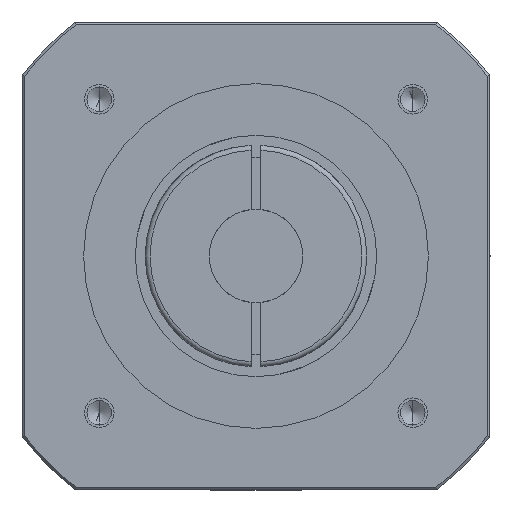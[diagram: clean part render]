
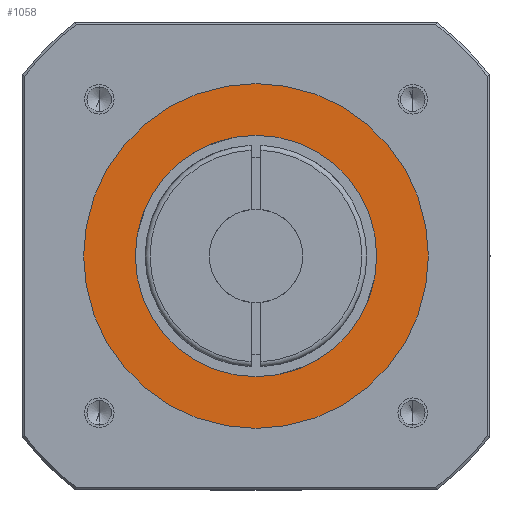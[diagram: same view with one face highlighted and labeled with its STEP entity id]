
A CAD part, front view. The second image highlights one B-rep face of the part: STEP entity #1058.
In plain terms, the highlighted planar face has unit normal (0, -1, 0).
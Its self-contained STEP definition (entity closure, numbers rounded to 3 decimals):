
#367 = AXIS2_PLACEMENT_3D ( 'NONE', #4467, #4477, #4478 ) ;
#517 = AXIS2_PLACEMENT_3D ( 'NONE', #5159, #5160, #5161 ) ;
#594 = EDGE_CURVE ( 'NONE', #5955, #5960, #1858, .T. ) ;
#638 = AXIS2_PLACEMENT_3D ( 'NONE', #4018, #3898, #4019 ) ;
#1058 = ADVANCED_FACE ( 'NONE', ( #2490, #2493 ), #4475, .T. ) ;
#1333 = EDGE_CURVE ( 'NONE', #5960, #5955, #1647, .T. ) ;
#1394 = EDGE_CURVE ( 'NONE', #4816, #4817, #1724, .T. ) ;
#1400 = EDGE_CURVE ( 'NONE', #4817, #4816, #1735, .T. ) ;
#1647 = CIRCLE ( 'NONE', #517, 35. ) ;
#1724 = CIRCLE ( 'NONE', #3255, 24.5 ) ;
#1735 = CIRCLE ( 'NONE', #3259, 24.5 ) ;
#1858 = CIRCLE ( 'NONE', #638, 35. ) ;
#2490 = FACE_OUTER_BOUND ( 'NONE', #5933, .T. ) ;
#2493 = FACE_BOUND ( 'NONE', #5929, .T. ) ;
#3198 = CARTESIAN_POINT ( 'NONE',  ( 0., -132., -24.5 ) ) ;
#3199 = CARTESIAN_POINT ( 'NONE',  ( 0., -132., 24.5 ) ) ;
#3226 = CARTESIAN_POINT ( 'NONE',  ( 0., -132., 35. ) ) ;
#3231 = CARTESIAN_POINT ( 'NONE',  ( 0., -132., -35. ) ) ;
#3255 = AXIS2_PLACEMENT_3D ( 'NONE', #5366, #5367, #5368 ) ;
#3259 = AXIS2_PLACEMENT_3D ( 'NONE', #5383, #5384, #5385 ) ;
#3898 = DIRECTION ( 'NONE',  ( 0., -1., 0. ) ) ;
#4018 = CARTESIAN_POINT ( 'NONE',  ( 0., -132., 0. ) ) ;
#4019 = DIRECTION ( 'NONE',  ( 0., 0., -1. ) ) ;
#4467 = CARTESIAN_POINT ( 'NONE',  ( 0., -132., 0. ) ) ;
#4475 = PLANE ( 'NONE',  #367 ) ;
#4477 = DIRECTION ( 'NONE',  ( 0., -1., 0. ) ) ;
#4478 = DIRECTION ( 'NONE',  ( 0., 0., -1. ) ) ;
#4816 = VERTEX_POINT ( 'NONE', #3198 ) ;
#4817 = VERTEX_POINT ( 'NONE', #3199 ) ;
#5159 = CARTESIAN_POINT ( 'NONE',  ( 0., -132., 0. ) ) ;
#5160 = DIRECTION ( 'NONE',  ( 0., -1., 0. ) ) ;
#5161 = DIRECTION ( 'NONE',  ( 0., 0., -1. ) ) ;
#5366 = CARTESIAN_POINT ( 'NONE',  ( 0., -132., 0. ) ) ;
#5367 = DIRECTION ( 'NONE',  ( 0., 1., 0. ) ) ;
#5368 = DIRECTION ( 'NONE',  ( 0., 0., -1. ) ) ;
#5383 = CARTESIAN_POINT ( 'NONE',  ( 0., -132., 0. ) ) ;
#5384 = DIRECTION ( 'NONE',  ( 0., 1., 0. ) ) ;
#5385 = DIRECTION ( 'NONE',  ( 0., 0., -1. ) ) ;
#5504 = ORIENTED_EDGE ( 'NONE', *, *, #1333, .T. ) ;
#5505 = ORIENTED_EDGE ( 'NONE', *, *, #594, .T. ) ;
#5506 = ORIENTED_EDGE ( 'NONE', *, *, #1394, .T. ) ;
#5507 = ORIENTED_EDGE ( 'NONE', *, *, #1400, .T. ) ;
#5929 = EDGE_LOOP ( 'NONE', ( #5506, #5507 ) ) ;
#5933 = EDGE_LOOP ( 'NONE', ( #5504, #5505 ) ) ;
#5955 = VERTEX_POINT ( 'NONE', #3226 ) ;
#5960 = VERTEX_POINT ( 'NONE', #3231 ) ;
